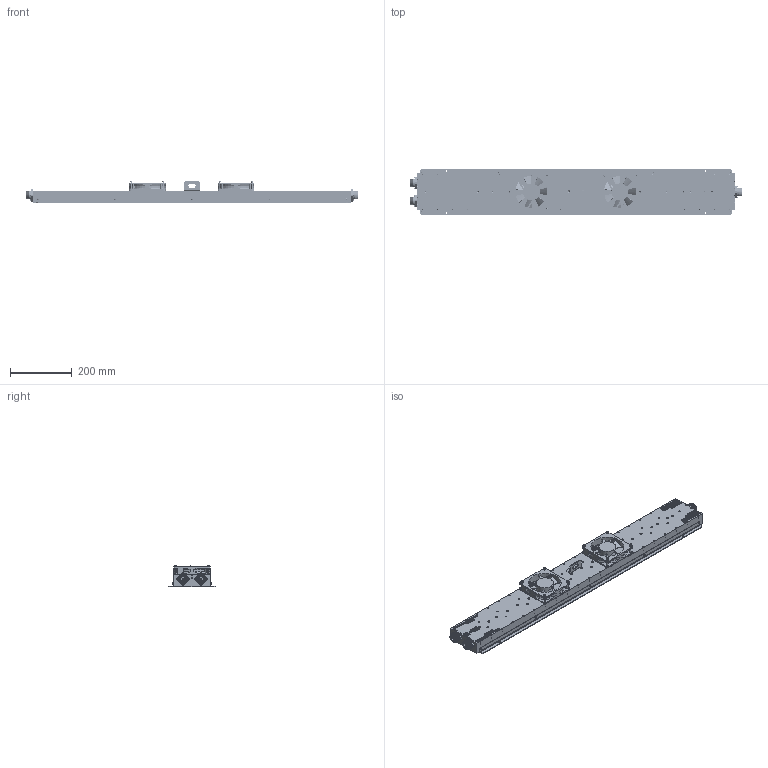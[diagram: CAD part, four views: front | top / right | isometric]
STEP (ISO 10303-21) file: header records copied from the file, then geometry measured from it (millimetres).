
FILE_DESCRIPTION(/* description */ ('Unknown'),/* implementation_level */ '2;1');
FILE_NAME(/* name */ 'DETI_MICROWAVE_MULTI_OCTAVE_BROADBAND_COMBINER _001549_STEP',/* time_stamp */ '2021-06-15T16:38:45+02:00',/* author */ ('ALG'),/* organization */ ('DETI'),/* preprocessor_version */ 'ST-DEVELOPER v16.7',/* originating_system */ 'Solid Edge',/* authorisation */ 'Unknown');
FILE_SCHEMA (('AUTOMOTIVE_DESIGN {1 0 10303 214 3 1 1}'));
Products named in the file (1): 001 549 01 14 01 FI C2
Bounding box: 1077.27 x 150 x 70.9 mm (x, y, z)
Volume: 1780638.8 mm3; surface area: 824057.1 mm2
Topology: 17 solids, 160 shells, 4359 faces, 11672 edges, 7714 vertices
Faces by surface type: plane 3075, cylinder 733, cone 369, torus 144, bspline 28, sphere 10
Full cylindrical faces by diameter (mm): 1.567 x53, 2 x53, 2.2 x53, 2.459 x48, 3 x44, 3.3 x22, 3.5 x24, 3.8 x53, 4 x8, 4.3 x16, 4.6 x3, 4.917 x21, 5.5 x38, 6.7 x3, 7 x11, 8 x168, 14.255 x2, 16 x7, 17.9 x3, 19.9 x21, 22 x3, 22.55 x3, 26 x3, 27.2 x3, 28.8 x3, 29 x3, 55 x2, 107 x2
Entity records: 153966 total; most frequent: CARTESIAN_POINT 24109, DIRECTION 20602, ORIENTED_EDGE 20038, EDGE_CURVE 10019, LINE 7660, VECTOR 7660, VERTEX_POINT 7128, AXIS2_PLACEMENT_3D 6471
